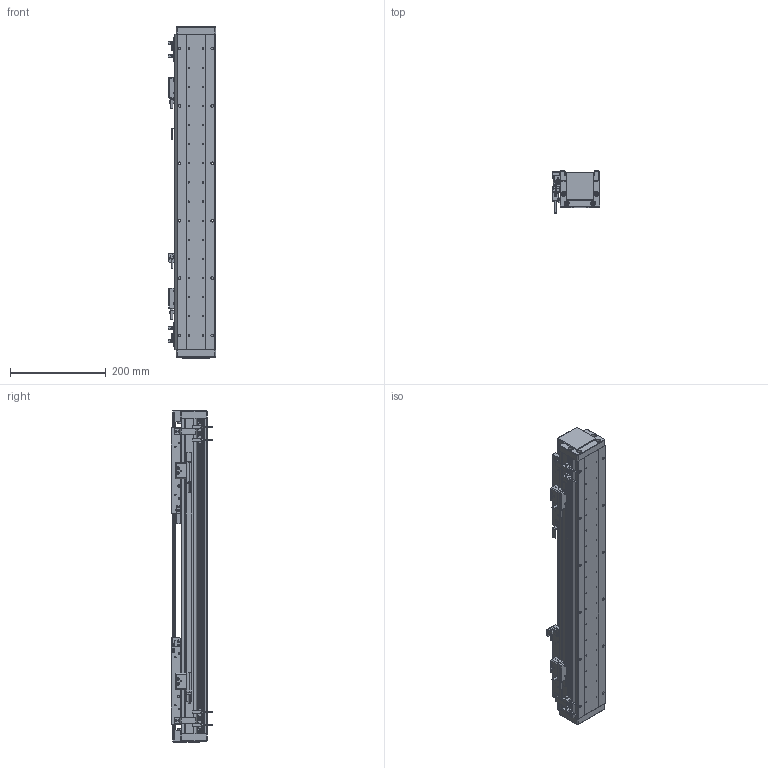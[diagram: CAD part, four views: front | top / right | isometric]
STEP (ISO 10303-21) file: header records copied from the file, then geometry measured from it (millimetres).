
FILE_DESCRIPTION (( 'STEP AP203' ), '1' );
FILE_NAME ('DA-A82-2-B2-T240-C010-0.2 眻盄萇儂.STEP', '2025-08-13T02:27:28', ( '' ), ( '' ), 'SwSTEP 2.0', 'SolidWorks 2019', '' );
FILE_SCHEMA (( 'CONFIG_CONTROL_DESIGN' ));
Length unit declared in the file: millimetre
Products named in the file (27): 复件 XD-U-02  磁栅尺^DA-A82-B2-T-C010-0.2-N 直线电机; 复件 DA95-B2-GT-00 滑块钢轨^AU82-M-00 一体化滑动台板; 复件 DA82-GYP-ZJ-00 中间光电感应片^DA-A82-B2-T-C010-0.2-N 直线电机; 复件 DA82-T-002-00 盖板^DA-A82-B2-T-C010-0.2-N 直线电机; 葩璃 PM-T45^DA-A82-B2-T-C010-0.2-N 眻盄萇儂; 葩璃 BKM01-W040-TRL^DA-A82-B2-T-C010-0.2-N 眻盄萇儂; 葩璃 DA82-B2-DP-00 結え^AU82-M 幗紩賑怢; 葩璃 PM-L25^DA-A82-B2-T-C010-0.2-N 眻盄萇儂; 复件 DA95-GT-T-00 底座钢轨^IU-AU82-L 底座导轨; AU82-M-00 珨极趙賑雄怢啣; 复件 六角薄螺母 M3^DA-A82-B2-T-C010-0.2-N 直线电机; 复件 BKM02-W040-C1-TP-DA-3.0 直线电机动子^DA-A82-B2-T-C010-0.2-N 直线电机; IU-AU82-L-00 菁釱(L660); 复件 DKW-GJ-XJ-00 防撞橡胶^DA-A82-B2-T-C010-0.2-N 直线电机; 复件 纯铜油杯 6x6mm^AU82-M 滚珠滑台; AU82-M-00 珨极趙賑雄怢啣-1; 葩璃 DMT-010 1米m 0.2M^DA-A82-B2-T-C010-0.2-N 眻盄萇儂; AU82-M 幗紩賑怢-1; AU82-M 幗紩賑怢; DA-A60-GYP-DMT-00 光电感应片^DA-A82-B2-T-C010-0.2-N 直线电机(默认); 复件 DA82-DG-H-N-00 端盖^DA-A82-B2-T-C010-0.2-N 直线电机(默认_按加工_); DA-A82-2-B2-T240-C010-0.2 眻盄萇儂; AU82-HT-M-00 賑雄怢啣; 复件 DA82-GDZ-ZJ-00 中间光电固定座^DA-A82-B2-T-C010-0.2-N 直线电机; 复件 DA60-DMT-DTJ-00 读数头支架^DA-A82-B2-T-C010-0.2-N 直线电机; IU-AU82-L 菁釱絳寢; 复件 复件 DA82-XJ-00 缓冲橡胶^DA-A82-B2-T-C010-0.2-N 直线电机
Assembly tree (57 placements, depth 4):
  DA-A82-2-B2-T240-C010-0.2 眻盄萇儂
    IU-AU82-L 菁釱絳寢
      IU-AU82-L-00 菁釱(L660)
      复件 DA95-GT-T-00 底座钢轨^IU-AU82-L 底座导轨  x2
    AU82-M 幗紩賑怢
      AU82-M-00 珨极趙賑雄怢啣
        AU82-HT-M-00 賑雄怢啣
        复件 DA95-B2-GT-00 滑块钢轨^AU82-M-00 一体化滑动台板  x4
      葩璃 DA82-B2-DP-00 結え^AU82-M 幗紩賑怢  x2
      复件 纯铜油杯 6x6mm^AU82-M 滚珠滑台  x2
    AU82-M 幗紩賑怢-1
      AU82-M-00 珨极趙賑雄怢啣-1
        AU82-HT-M-00 賑雄怢啣
        复件 DA95-B2-GT-00 滑块钢轨^AU82-M-00 一体化滑动台板  x4
      葩璃 DA82-B2-DP-00 結え^AU82-M 幗紩賑怢  x2
      复件 纯铜油杯 6x6mm^AU82-M 滚珠滑台  x2
    复件 BKM02-W040-C1-TP-DA-3.0 直线电机动子^DA-A82-B2-T-C010-0.2-N 直线电机  x2
    复件 DA60-DMT-DTJ-00 读数头支架^DA-A82-B2-T-C010-0.2-N 直线电机  x2
    葩璃 DMT-010 1米m 0.2M^DA-A82-B2-T-C010-0.2-N 眻盄萇儂  x2
    DA-A60-GYP-DMT-00 光电感应片^DA-A82-B2-T-C010-0.2-N 直线电机(默认)  x2
    复件 DA82-GDZ-ZJ-00 中间光电固定座^DA-A82-B2-T-C010-0.2-N 直线电机
    葩璃 PM-L25^DA-A82-B2-T-C010-0.2-N 眻盄萇儂
    复件 DA82-GYP-ZJ-00 中间光电感应片^DA-A82-B2-T-C010-0.2-N 直线电机
    复件 DKW-GJ-XJ-00 防撞橡胶^DA-A82-B2-T-C010-0.2-N 直线电机
    复件 复件 DA82-XJ-00 缓冲橡胶^DA-A82-B2-T-C010-0.2-N 直线电机  x2
    复件 DA82-DG-H-N-00 端盖^DA-A82-B2-T-C010-0.2-N 直线电机(默认_按加工_)  x2
    复件 DA82-T-002-00 盖板^DA-A82-B2-T-C010-0.2-N 直线电机
    葩璃 BKM01-W040-TRL^DA-A82-B2-T-C010-0.2-N 眻盄萇儂
    葩璃 PM-T45^DA-A82-B2-T-C010-0.2-N 眻盄萇儂  x4
    复件 XD-U-02  磁栅尺^DA-A82-B2-T-C010-0.2-N 直线电机
    复件 六角薄螺母 M3^DA-A82-B2-T-C010-0.2-N 直线电机  x8
Bounding box: 98.95 x 87.2 x 694 mm (x, y, z)
Volume: 2853337.7 mm3; surface area: 791513.7 mm2
Topology: 66 solids, 114 shells, 2973 faces, 7531 edges, 4616 vertices
Faces by surface type: cylinder 1245, plane 1218, cone 436, torus 46, bspline 20, sphere 8
Entity records: 55099 total; most frequent: CARTESIAN_POINT 11524, DIRECTION 8596, ORIENTED_EDGE 8014, EDGE_CURVE 4007, AXIS2_PLACEMENT_3D 3195, VERTEX_POINT 2587, VECTOR 2206, LINE 2206
